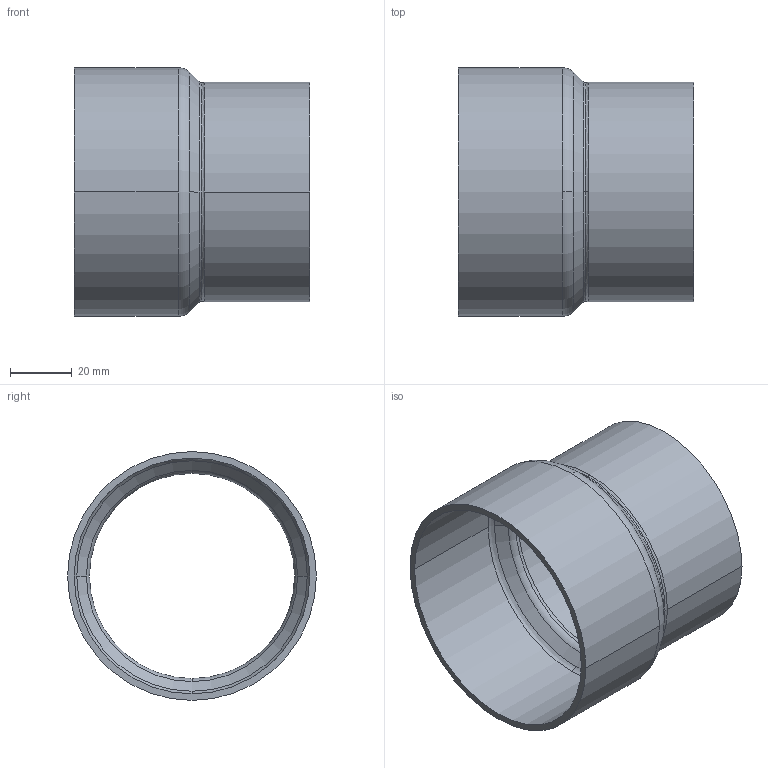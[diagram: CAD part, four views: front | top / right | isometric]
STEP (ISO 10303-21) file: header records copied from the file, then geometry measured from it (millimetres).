
FILE_DESCRIPTION((''),'2;1');
FILE_NAME('G:\Technics\CAD\Bauteile\Serie 15240\152407667.stp','2005-10-21T12:51:21',('boden'),(''),'Autodesk Inventor 8','Autodesk Inventor 8','');
FILE_SCHEMA(('AUTOMOTIVE_DESIGN { 1 0 10303 214 1 1 1 1 }'));
Length unit declared in the file: millimetre
Products named in the file (1): 152407667
Bounding box: 76 x 80.4 x 80.4 mm (x, y, z)
Volume: 37777 mm3; surface area: 36952 mm2
Topology: 1 solids, 1 shells, 26 faces, 68 edges, 44 vertices
Faces by surface type: cylinder 8, torus 6, bspline 6, cone 4, plane 2
Entity records: 1103 total; most frequent: CARTESIAN_POINT 403, DIRECTION 166, ORIENTED_EDGE 136, AXIS2_PLACEMENT_3D 77, EDGE_CURVE 68, CIRCLE 56, VERTEX_POINT 44, EDGE_LOOP 28
